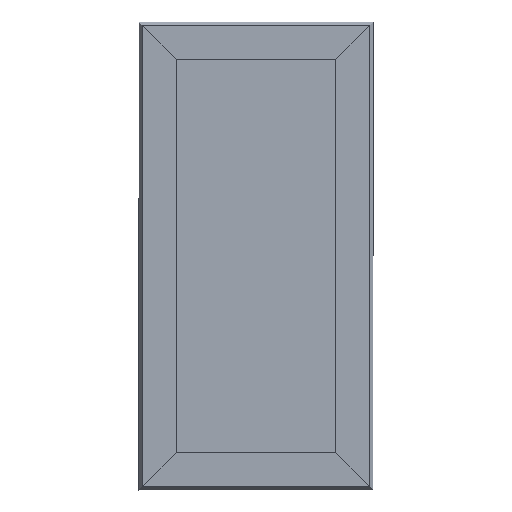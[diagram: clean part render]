
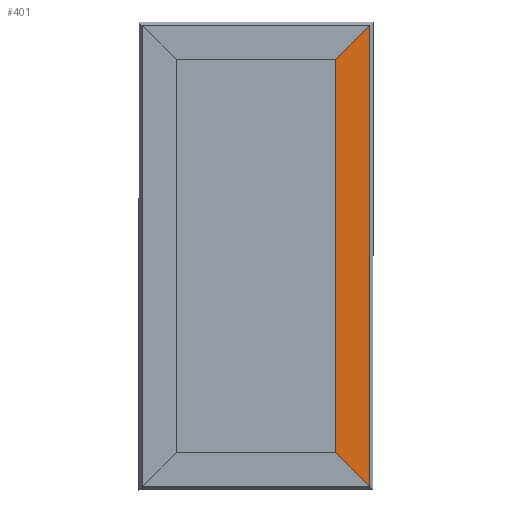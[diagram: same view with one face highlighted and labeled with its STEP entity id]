
A CAD part, front view. The second image highlights one B-rep face of the part: STEP entity #401.
In plain terms, the highlighted planar face has unit normal (0, -1, 0).
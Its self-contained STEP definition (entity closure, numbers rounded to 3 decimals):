
#197 = CARTESIAN_POINT ( 'NONE',  ( 340., 0., -1000. ) ) ;
#213 = VECTOR ( 'NONE', #254, 1000. ) ;
#254 = DIRECTION ( 'NONE',  ( 0.707, 0., 0.707 ) ) ;
#260 = CARTESIAN_POINT ( 'NONE',  ( 485.296, 0., -985.296 ) ) ;
#275 = LINE ( 'NONE', #2707, #213 ) ;
#401 = ADVANCED_FACE ( 'NONE', ( #3402 ), #4967, .F. ) ;
#848 = CARTESIAN_POINT ( 'NONE',  ( 340., 0., -840. ) ) ;
#1079 = DIRECTION ( 'NONE',  ( 0., 0., 1. ) ) ;
#1262 = EDGE_CURVE ( 'NONE', #2061, #4944, #3050, .T. ) ;
#1435 = DIRECTION ( 'NONE',  ( 0., 1., 0. ) ) ;
#1598 = CARTESIAN_POINT ( 'NONE',  ( 485.296, 0., 985.296 ) ) ;
#1613 = ORIENTED_EDGE ( 'NONE', *, *, #1262, .T. ) ;
#1634 = EDGE_CURVE ( 'NONE', #2121, #3433, #4556, .T. ) ;
#1876 = VECTOR ( 'NONE', #3331, 1000. ) ;
#2061 = VERTEX_POINT ( 'NONE', #260 ) ;
#2121 = VERTEX_POINT ( 'NONE', #848 ) ;
#2215 = CARTESIAN_POINT ( 'NONE',  ( 420., 0., -920. ) ) ;
#2428 = EDGE_CURVE ( 'NONE', #3433, #4944, #275, .T. ) ;
#2551 = EDGE_LOOP ( 'NONE', ( #3379, #3092, #3750, #1613 ) ) ;
#2707 = CARTESIAN_POINT ( 'NONE',  ( -580., 0., -80. ) ) ;
#2769 = VECTOR ( 'NONE', #3043, 1000. ) ;
#3043 = DIRECTION ( 'NONE',  ( 0., 0., 1. ) ) ;
#3050 = LINE ( 'NONE', #4619, #3585 ) ;
#3092 = ORIENTED_EDGE ( 'NONE', *, *, #1634, .F. ) ;
#3309 = LINE ( 'NONE', #2215, #1876 ) ;
#3331 = DIRECTION ( 'NONE',  ( -0.707, 0., 0.707 ) ) ;
#3379 = ORIENTED_EDGE ( 'NONE', *, *, #2428, .F. ) ;
#3402 = FACE_OUTER_BOUND ( 'NONE', #2551, .T. ) ;
#3433 = VERTEX_POINT ( 'NONE', #4709 ) ;
#3495 = AXIS2_PLACEMENT_3D ( 'NONE', #197, #1435, #4460 ) ;
#3585 = VECTOR ( 'NONE', #1079, 1000. ) ;
#3750 = ORIENTED_EDGE ( 'NONE', *, *, #5024, .F. ) ;
#4460 = DIRECTION ( 'NONE',  ( -1., 0., 0. ) ) ;
#4556 = LINE ( 'NONE', #5018, #2769 ) ;
#4619 = CARTESIAN_POINT ( 'NONE',  ( 485.296, 0., -1000. ) ) ;
#4709 = CARTESIAN_POINT ( 'NONE',  ( 340., 0., 840. ) ) ;
#4944 = VERTEX_POINT ( 'NONE', #1598 ) ;
#4967 = PLANE ( 'NONE',  #3495 ) ;
#5018 = CARTESIAN_POINT ( 'NONE',  ( 340., 0., -1000. ) ) ;
#5024 = EDGE_CURVE ( 'NONE', #2061, #2121, #3309, .T. ) ;
